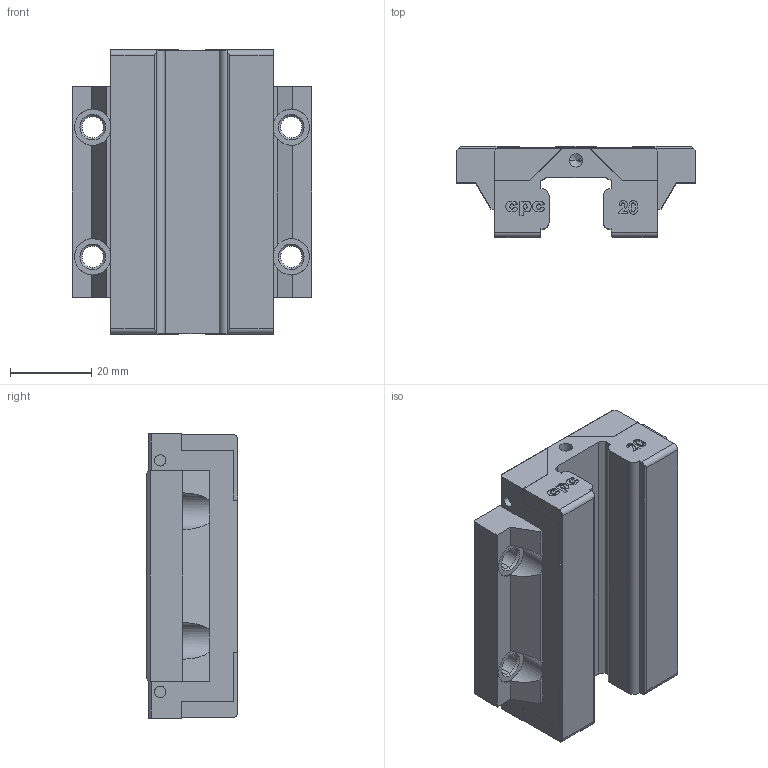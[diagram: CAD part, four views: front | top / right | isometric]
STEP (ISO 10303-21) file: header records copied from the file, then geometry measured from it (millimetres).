
FILE_DESCRIPTION (( 'STEP AP203' ), '1' );
FILE_NAME ('AR20_FN.STEP', '2009-08-03T10:38:41', ( 'cpc' ), ( '' ), 'SwSTEP 2.0', 'SolidWorks 2007', '' );
FILE_SCHEMA (( 'CONFIG_CONTROL_DESIGN' ));
Length unit declared in the file: millimetre
Products named in the file (1): AR20_FN
Bounding box: 59 x 22.5 x 70.2 mm (x, y, z)
Volume: 56357.3 mm3; surface area: 15354.9 mm2
Topology: 1 solids, 1 shells, 298 faces, 806 edges, 526 vertices
Faces by surface type: plane 150, bspline 90, cylinder 38, cone 20
Entity records: 14155 total; most frequent: CARTESIAN_POINT 7209, ORIENTED_EDGE 1604, DIRECTION 1108, EDGE_CURVE 802, VERTEX_POINT 526, VECTOR 498, LINE 498, EDGE_LOOP 326
